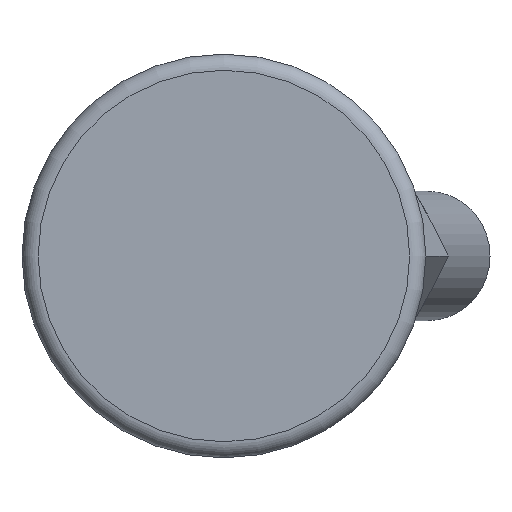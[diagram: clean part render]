
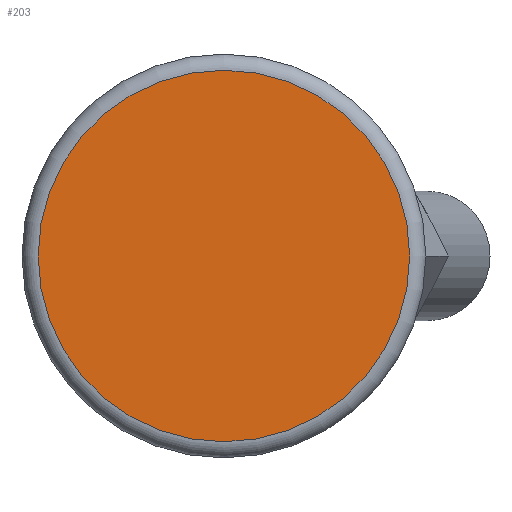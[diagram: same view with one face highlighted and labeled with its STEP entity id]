
A CAD part, front view. The second image highlights one B-rep face of the part: STEP entity #203.
In plain terms, the highlighted planar face has unit normal (0, -1, 0).
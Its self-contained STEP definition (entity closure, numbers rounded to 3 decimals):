
#203 = ADVANCED_FACE( '', ( #390 ), #391, .F. );
#390 = FACE_OUTER_BOUND( '', #572, .T. );
#391 = PLANE( '', #573 );
#572 = EDGE_LOOP( '', ( #896 ) );
#573 = AXIS2_PLACEMENT_3D( '', #897, #898, #899 );
#896 = ORIENTED_EDGE( '', *, *, #1116, .T. );
#897 = CARTESIAN_POINT( '', ( 11.5, 0., 0. ) );
#898 = DIRECTION( '', ( 0., 1., 0. ) );
#899 = DIRECTION( '', ( 0., 0., 1. ) );
#1116 = EDGE_CURVE( '', #1310, #1310, #1311, .T. );
#1310 = VERTEX_POINT( '', #1741 );
#1311 = CIRCLE( '', #1742, 11.5 );
#1741 = CARTESIAN_POINT( '', ( 0., 0., -11.5 ) );
#1742 = AXIS2_PLACEMENT_3D( '', #1903, #1904, #1905 );
#1903 = CARTESIAN_POINT( '', ( 0., 0., 0. ) );
#1904 = DIRECTION( '', ( 0., -1., 0. ) );
#1905 = DIRECTION( '', ( 0., 0., -1. ) );
